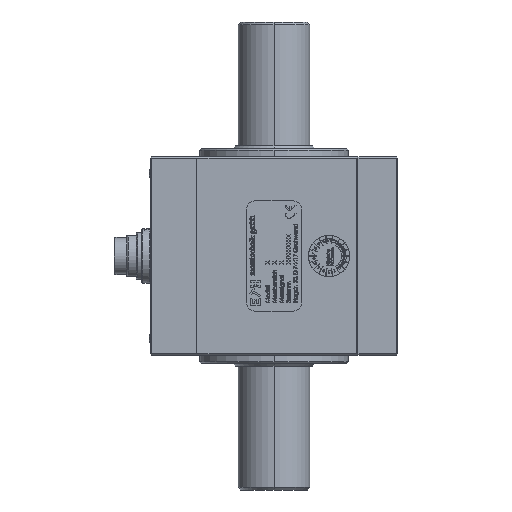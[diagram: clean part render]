
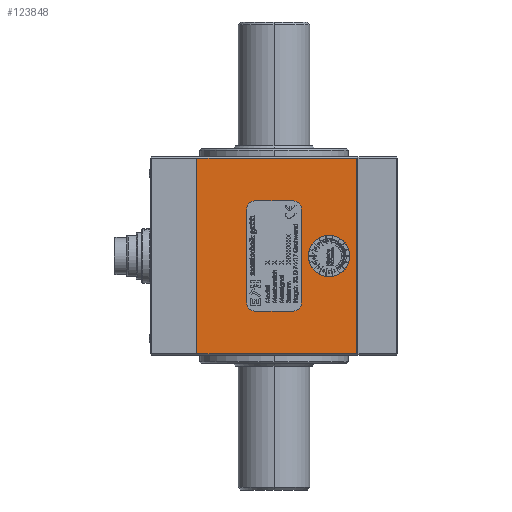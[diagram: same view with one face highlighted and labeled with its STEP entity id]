
A CAD part, left-side view. The second image highlights one B-rep face of the part: STEP entity #123848.
In plain terms, the highlighted planar face has unit normal (-1, 0, 0).
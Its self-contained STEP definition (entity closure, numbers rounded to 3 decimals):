
#466 = EDGE_CURVE ( 'NONE', #81537, #101143, #120681, .T. ) ;
#4787 = ORIENTED_EDGE ( 'NONE', *, *, #119052, .F. ) ;
#10789 = VERTEX_POINT ( 'NONE', #46758 ) ;
#13371 = FACE_OUTER_BOUND ( 'NONE', #164270, .T. ) ;
#24205 = CARTESIAN_POINT ( 'NONE',  ( -28., -30., -74.5 ) ) ;
#24969 = DIRECTION ( 'NONE',  ( -1., 0., 0. ) ) ;
#29827 = CARTESIAN_POINT ( 'NONE',  ( -28., -30., -78. ) ) ;
#31326 = LINE ( 'NONE', #87132, #112371 ) ;
#32299 = CARTESIAN_POINT ( 'NONE',  ( -28., -28., -74.5 ) ) ;
#46758 = CARTESIAN_POINT ( 'NONE',  ( -28., 28., -3.5 ) ) ;
#54778 = DIRECTION ( 'NONE',  ( 0., 0., -1. ) ) ;
#56598 = ORIENTED_EDGE ( 'NONE', *, *, #466, .T. ) ;
#57249 = DIRECTION ( 'NONE',  ( 0., 0., 1. ) ) ;
#62316 = VECTOR ( 'NONE', #54778, 1000. ) ;
#78208 = VERTEX_POINT ( 'NONE', #110174 ) ;
#81537 = VERTEX_POINT ( 'NONE', #159469 ) ;
#84520 = DIRECTION ( 'NONE',  ( 0., 0., 1. ) ) ;
#87132 = CARTESIAN_POINT ( 'NONE',  ( -28., 28., -78. ) ) ;
#93409 = CARTESIAN_POINT ( 'NONE',  ( -28., -28., -3.5 ) ) ;
#99864 = CARTESIAN_POINT ( 'NONE',  ( -28., -28., -78. ) ) ;
#101143 = VERTEX_POINT ( 'NONE', #24205 ) ;
#110174 = CARTESIAN_POINT ( 'NONE',  ( -28., -30., -3.5 ) ) ;
#111999 = ORIENTED_EDGE ( 'NONE', *, *, #121776, .F. ) ;
#112371 = VECTOR ( 'NONE', #57249, 1000. ) ;
#119052 = EDGE_CURVE ( 'NONE', #78208, #101143, #172092, .T. ) ;
#119731 = DIRECTION ( 'NONE',  ( 0., -1., 0. ) ) ;
#120368 = LINE ( 'NONE', #93409, #184943 ) ;
#120681 = LINE ( 'NONE', #32299, #181499 ) ;
#121640 = ORIENTED_EDGE ( 'NONE', *, *, #159399, .T. ) ;
#121776 = EDGE_CURVE ( 'NONE', #81537, #10789, #31326, .T. ) ;
#123848 = ADVANCED_FACE ( 'NONE', ( #13371 ), #156655, .T. ) ;
#135764 = DIRECTION ( 'NONE',  ( 0., 1., 0. ) ) ;
#144258 = AXIS2_PLACEMENT_3D ( 'NONE', #99864, #24969, #84520 ) ;
#156655 = PLANE ( 'NONE',  #144258 ) ;
#159399 = EDGE_CURVE ( 'NONE', #78208, #10789, #120368, .T. ) ;
#159469 = CARTESIAN_POINT ( 'NONE',  ( -28., 28., -74.5 ) ) ;
#164270 = EDGE_LOOP ( 'NONE', ( #4787, #121640, #111999, #56598 ) ) ;
#172092 = LINE ( 'NONE', #29827, #62316 ) ;
#181499 = VECTOR ( 'NONE', #119731, 1000. ) ;
#184943 = VECTOR ( 'NONE', #135764, 1000. ) ;
